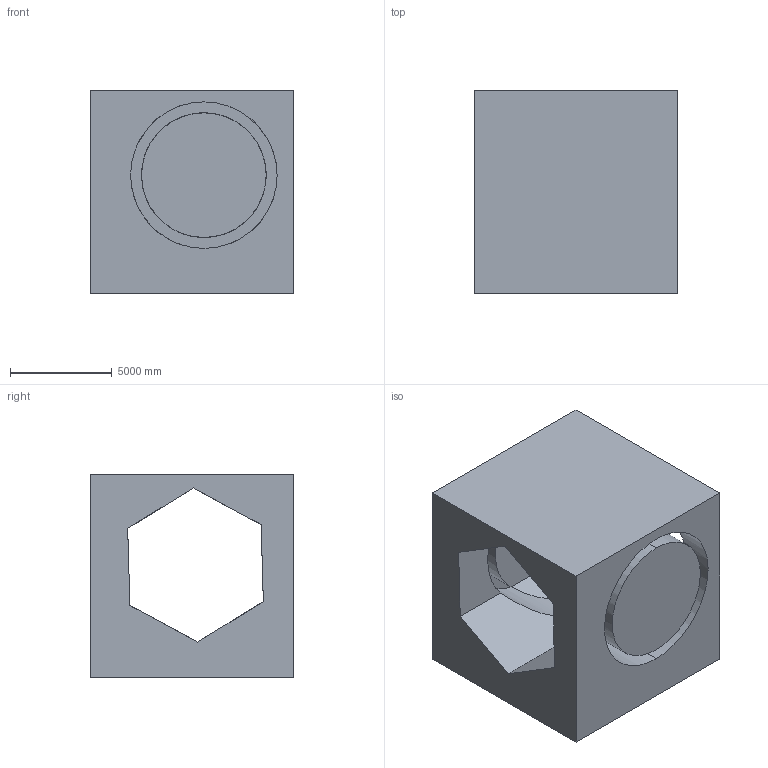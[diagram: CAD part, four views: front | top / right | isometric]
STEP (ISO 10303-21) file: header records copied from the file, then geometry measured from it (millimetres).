
FILE_DESCRIPTION (( 'STEP AP203' ), '1' );
FILE_NAME ('108.STEP', '2022-09-06T15:06:10', ( 'user' ), ( '' ), 'SwSTEP 2.0', 'SolidWorks 2021', '' );
FILE_SCHEMA (( 'CONFIG_CONTROL_DESIGN' ));
Length unit declared in the file: centimetre
Products named in the file (1): 108
Bounding box: 10000 x 10000 x 10000 mm (x, y, z)
Volume: 572604664316.2 mm3; surface area: 917795804.5 mm2
Topology: 2 solids, 2 shells, 30 faces, 78 edges, 52 vertices
Faces by surface type: plane 24, cylinder 6
Entity records: 993 total; most frequent: CARTESIAN_POINT 233, ORIENTED_EDGE 156, DIRECTION 124, EDGE_CURVE 78, VERTEX_POINT 52, LINE 46, VECTOR 46, AXIS2_PLACEMENT_3D 39
